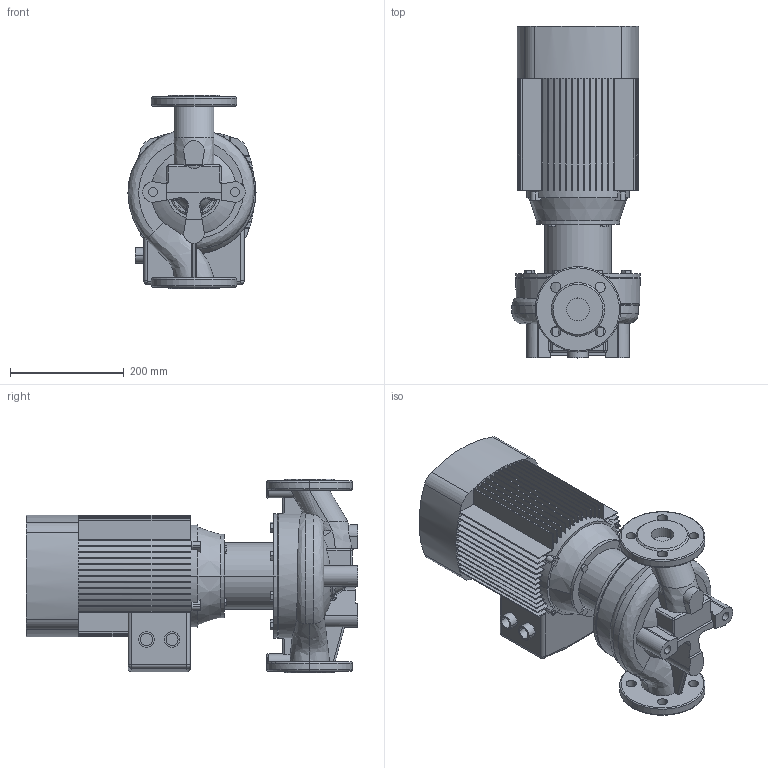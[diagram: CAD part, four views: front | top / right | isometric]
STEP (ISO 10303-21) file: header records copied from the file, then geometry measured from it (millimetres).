
FILE_DESCRIPTION (( 'STEP AP203' ), '1' );
FILE_NAME ('TD40-30G_2.STEP', '2022-05-02T14:04:19', ( '' ), ( '' ), 'SwSTEP 2.0', 'SolidWorks 2019', '' );
FILE_SCHEMA (( 'CONFIG_CONTROL_DESIGN' ));
Length unit declared in the file: millimetre
Products named in the file (4): ED_B14_YE2-112M-2 (4); TD40-30G_2; Pr_ch 40_TD40-30G_2; Fon_40_TD40-30G_2
Assembly tree (3 placements, depth 2):
  TD40-30G_2
    Pr_ch 40_TD40-30G_2
    Fon_40_TD40-30G_2
    ED_B14_YE2-112M-2 (4)
Bounding box: 225 x 583 x 340 mm (x, y, z)
Volume: 17070376 mm3; surface area: 1157845.4 mm2
Topology: 3 solids, 4 shells, 646 faces, 1746 edges, 1137 vertices
Faces by surface type: plane 397, cylinder 167, bspline 36, torus 25, cone 11, sphere 10
Entity records: 27130 total; most frequent: CARTESIAN_POINT 10368, ORIENTED_EDGE 3484, DIRECTION 3406, EDGE_CURVE 1742, AXIS2_PLACEMENT_3D 1225, VERTEX_POINT 1137, VECTOR 956, LINE 956
